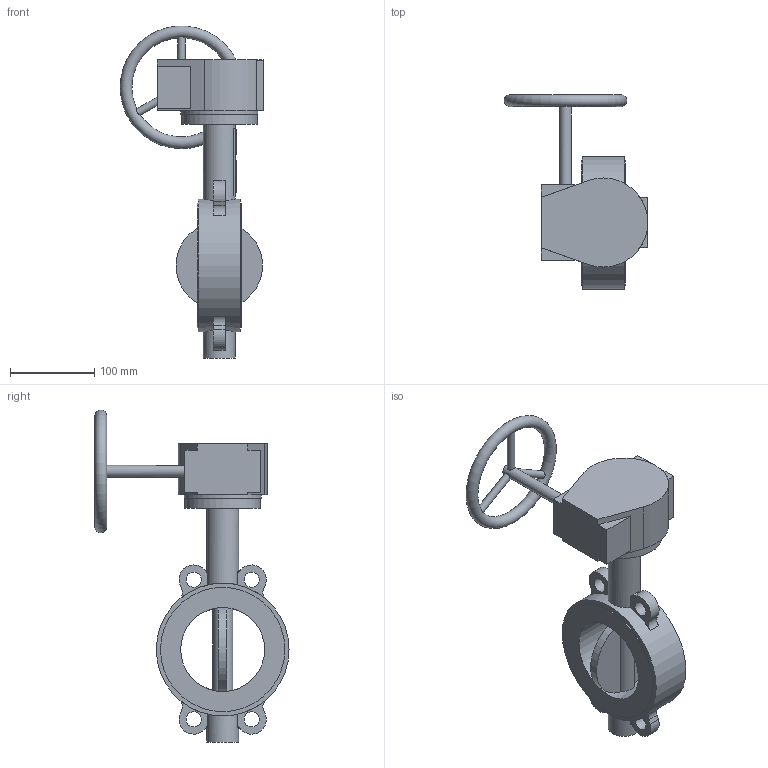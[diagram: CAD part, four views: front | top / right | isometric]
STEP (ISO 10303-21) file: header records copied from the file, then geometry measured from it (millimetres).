
FILE_DESCRIPTION(('STEP AP203'), '1');
FILE_NAME('青蜮铕 015WDN100 疱潴牝铕', '', ('UNSPECIFIED'), ('UNSPECIFIED'), 'ASCON STEP Converter 1.6', 'ASCON Math Kernel', '');
FILE_SCHEMA(('CONFIG_CONTROL_DESIGN'));
Length unit declared in the file: millimetre
Bounding box: 170.94 x 231 x 394.98 mm (x, y, z)
Volume: 800033.6 mm3; surface area: 207667.5 mm2
Topology: 1 solids, 2 shells, 677 faces, 1965 edges, 1262 vertices
Faces by surface type: cylinder 465, plane 199, bspline 12, torus 1
Full cylindrical faces by diameter (mm): 6.7 x4, 9 x3, 10 x4, 14 x1, 15.9 x1, 18 x4, 38 x2, 55 x1, 90 x1, 92 x1, 100 x1, 148 x2, 158 x1
Entity records: 31232 total; most frequent: CARTESIAN_POINT 7237, DIRECTION 4185, ORIENTED_EDGE 3811, EDGE_CURVE 1937, AXIS2_PLACEMENT_3D 1646, VERTEX_POINT 1261, CIRCLE 980, LINE 893
